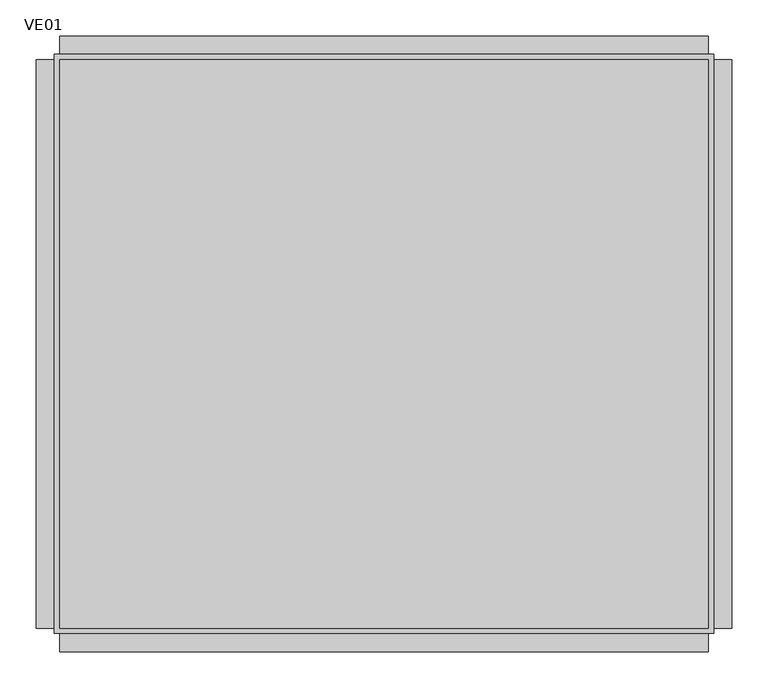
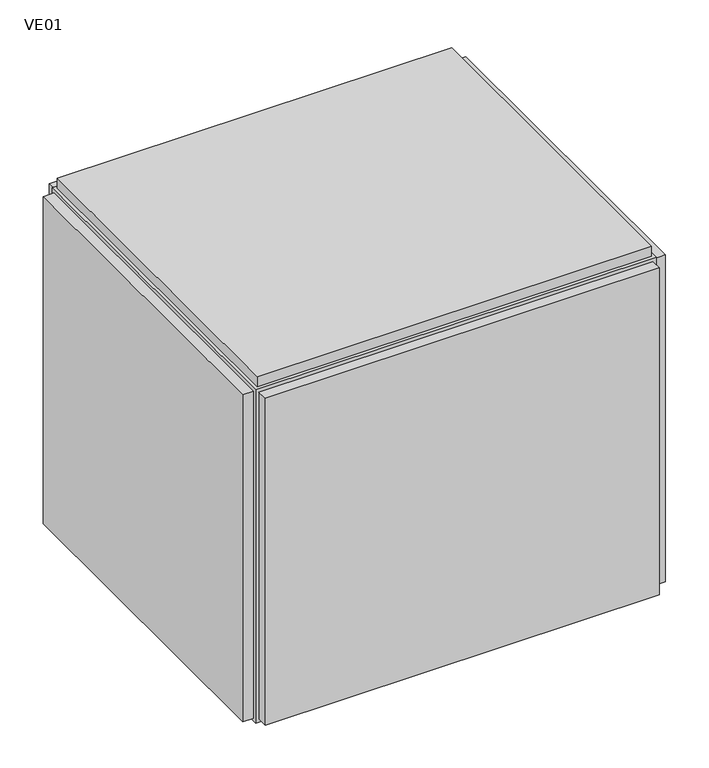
"""IFC4 building model written with IfcOpenShell, lengths in millimetres: proxy geometry, ZYR_03.06.01 Ventilador Caixa Extracció : VE01."""

from ifc_helpers import new_model, si_unit, frame, origin, origin_with_axes, place, context, project, spatial, polyline, outline, extrude, source, transform, mapped, element, save


def ve01_d8789e3e(model_context):
    return source(origin(), model_context, "Body", "SweptSolid", [
        extrude(outline(polyline([(455.0, 400.0), (455.0, -400.0), (-455.0, -400.0), (-455.0, 400.0), (455.0, 400.0)])), origin_with_axes(), (0.0, 0.0, 1.0), 800.0),
        extrude(outline(polyline([(480.0, 392.5), (480.0, -392.5), (455.0, -392.5), (455.0, 392.5), (480.0, 392.5)])), frame((0.0, 0.0, 7.5), z_axis=(0.0, 0.0, 1.0), x_axis=(1.0, 0.0, 0.0)), (0.0, 0.0, 1.0), 785.0),
        extrude(outline(polyline([(-455.0, 392.5), (-455.0, -392.5), (-480.0, -392.5), (-480.0, 392.5), (-455.0, 392.5)])), frame((0.0, 0.0, 7.5), z_axis=(0.0, 0.0, 1.0), x_axis=(1.0, 0.0, 0.0)), (0.0, 0.0, 1.0), 785.0),
        extrude(outline(polyline([(447.5, -425.0), (-447.5, -425.0), (-447.5, -400.0), (447.5, -400.0), (447.5, -425.0)])), frame((0.0, 0.0, 7.5), z_axis=(0.0, 0.0, 1.0), x_axis=(1.0, 0.0, 0.0)), (0.0, 0.0, 1.0), 785.0),
        extrude(outline(polyline([(447.5, 400.0), (-447.5, 400.0), (-447.5, 425.0), (447.5, 425.0), (447.5, 400.0)])), frame((0.0, 0.0, 7.5), z_axis=(0.0, 0.0, 1.0), x_axis=(1.0, 0.0, 0.0)), (0.0, 0.0, 1.0), 785.0),
        extrude(outline(polyline([(447.5, 392.5), (447.5, -392.5), (-447.5, -392.5), (-447.5, 392.5), (447.5, 392.5)])), frame((0.0, 0.0, 800.0), z_axis=(0.0, 0.0, 1.0), x_axis=(1.0, 0.0, 0.0)), (0.0, 0.0, 1.0), 25.0),
    ])


if __name__ == "__main__":
    model = new_model("IFC4")
    model_context = context("Model", 3, world=origin())
    ifc_project = project(units=[si_unit("LENGTHUNIT", "METRE", prefix="MILLI")], contexts=[model_context])
    site = spatial("IfcSite", under=ifc_project)
    building = spatial("IfcBuilding", under=site)
    placement = place(None, origin())
    ve01_shape = ve01_d8789e3e(model_context)
    element("IfcBuildingElementProxy", 1, Name="ZYR_03.06.01 Ventilador Caixa Extracció : VE01", ObjectType="ZYR_03.06.01 Ventilador Caixa Extracció : VE01", at=placement, inside=building, context=model_context, shape_type="MappedRepresentation", body=[
        mapped(ve01_shape, transform((0.0, 0.0, 0.0), x_axis=(1.0, 0.0, 0.0), y_axis=(0.0, 1.0, 0.0), z_axis=(0.0, 0.0, 1.0))),
    ])
    save(model, "model.ifc")
